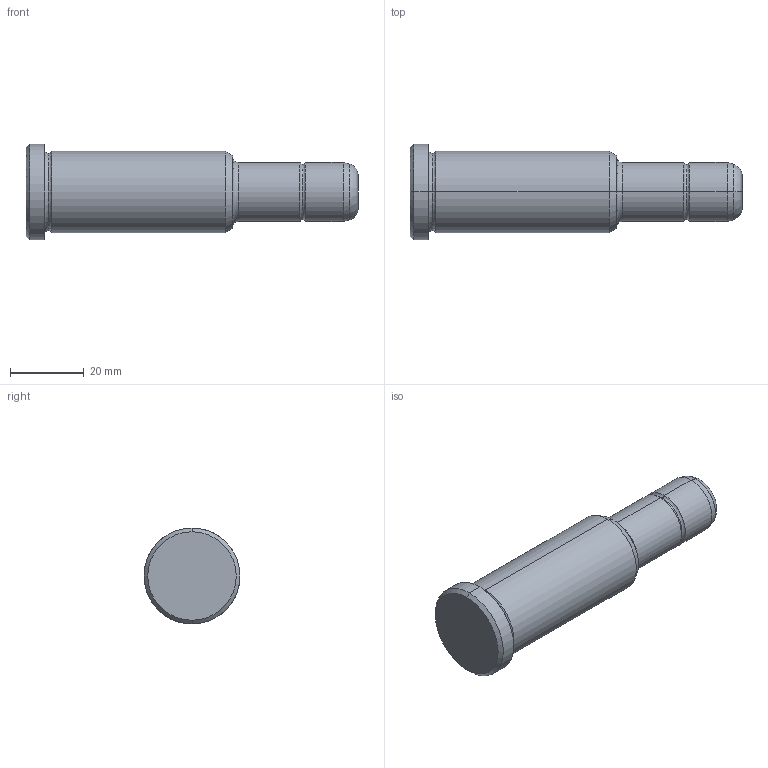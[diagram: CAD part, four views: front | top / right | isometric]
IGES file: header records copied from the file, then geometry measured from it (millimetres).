
Start section: START RECORD GO HERE.
Global section: file name: 351-16X56X90.igs; native system: DASSAULT SYSTEMES CATIA V5 R20 - www.3ds.com; preprocessor: CATIA Version 5 Release 20 ; author: Utente; organization: NB04-ASUS; date: 20210818.142617; units: millimetre
Bounding box: 90 x 26 x 26 mm (x, y, z)
Surface area: 6507.3 mm2 (no closed solid volume)
Topology: 0 solids, 0 shells, 30 faces, 172 edges, 172 vertices
Faces by surface type: revolution 26, plane 4
